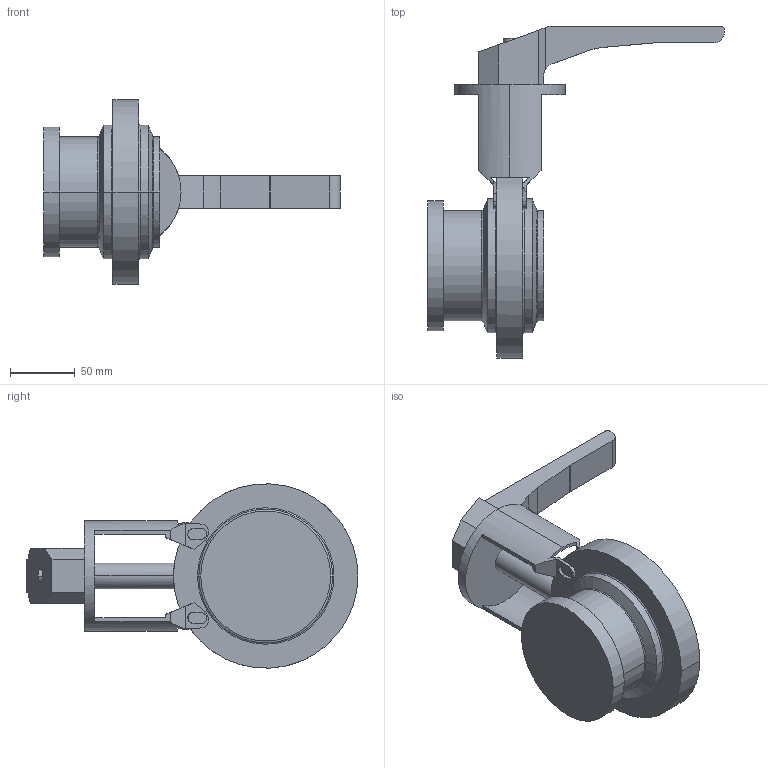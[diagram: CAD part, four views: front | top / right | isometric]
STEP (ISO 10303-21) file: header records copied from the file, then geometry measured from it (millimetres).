
FILE_DESCRIPTION(('Creo Elements/Direct Modeling STEP Export'),'2;1');
FILE_NAME('SV1_80_HL_1S2K.stp','2014-07-08T11:19:31',(''),(''),'Creo Elements/Direct Modeling STEP processor for AP214 (Solid Model)','Creo Elements/Direct Modeling 17.0D 15-Jul-2011 (C) Parametric Technology GmbH','');
FILE_SCHEMA(('AUTOMOTIVE_DESIGN { 1 0 10303 214 1 1 1 1 }'));
Length unit declared in the file: millimetre
Products named in the file (3): SV1-80-FZ-1S2K; Handhebel-SV-40-100.1; SV1-80-HL-1S2K.stp
Assembly tree (2 placements, depth 2):
  SV1-80-HL-1S2K.stp
    Handhebel-SV-40-100.1
    SV1-80-FZ-1S2K
Bounding box: 228.2 x 255.5 x 141.81 mm (x, y, z)
Volume: 970048.4 mm3; surface area: 118134.4 mm2
Topology: 2 solids, 2 shells, 141 faces, 376 edges, 241 vertices
Faces by surface type: plane 90, cylinder 39, torus 8, cone 4
Entity records: 4958 total; most frequent: CARTESIAN_POINT 1456, ORIENTED_EDGE 752, DIRECTION 692, EDGE_CURVE 376, VERTEX_POINT 241, AXIS2_PLACEMENT_3D 231, VECTOR 230, LINE 230
